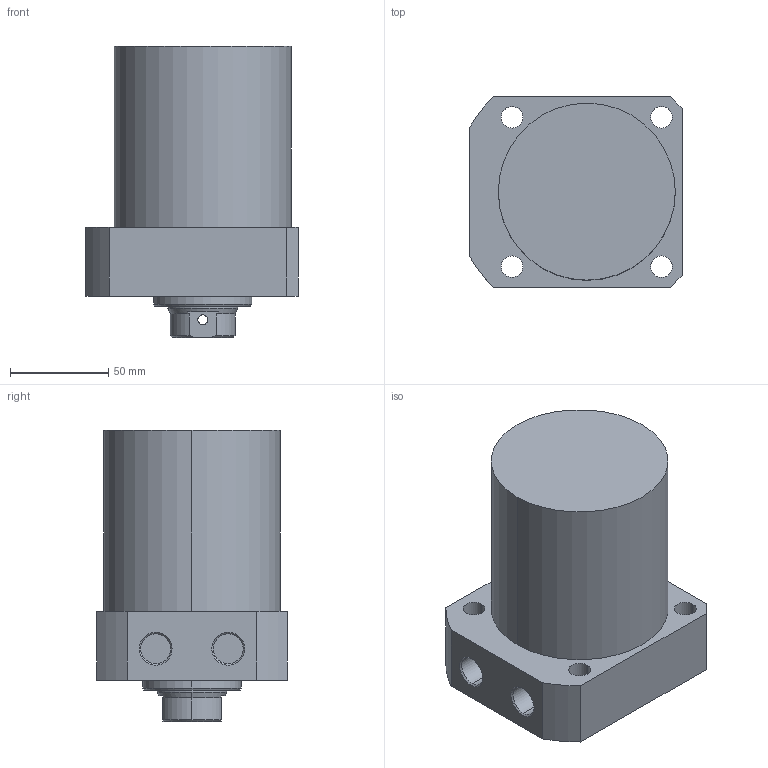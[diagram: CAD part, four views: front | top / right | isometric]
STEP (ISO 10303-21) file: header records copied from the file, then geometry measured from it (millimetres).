
FILE_DESCRIPTION (( 'STEP AP203' ), '1' );
FILE_NAME ('CLLR-090CB-070.STEP', '2019-12-19T02:34:13', ( '' ), ( '' ), 'SwSTEP 2.0', 'SolidWorks 2015', '' );
FILE_SCHEMA (( 'CONFIG_CONTROL_DESIGN' ));
Length unit declared in the file: millimetre
Products named in the file (1): CLLR-090CB-070
Bounding box: 108 x 97 x 148 mm (x, y, z)
Volume: 935292.9 mm3; surface area: 71198.1 mm2
Topology: 1 solids, 1 shells, 67 faces, 161 edges, 102 vertices
Faces by surface type: cylinder 33, plane 19, cone 15
Entity records: 2179 total; most frequent: CARTESIAN_POINT 477, DIRECTION 360, ORIENTED_EDGE 318, EDGE_CURVE 159, AXIS2_PLACEMENT_3D 145, VERTEX_POINT 102, EDGE_LOOP 87, CIRCLE 77
